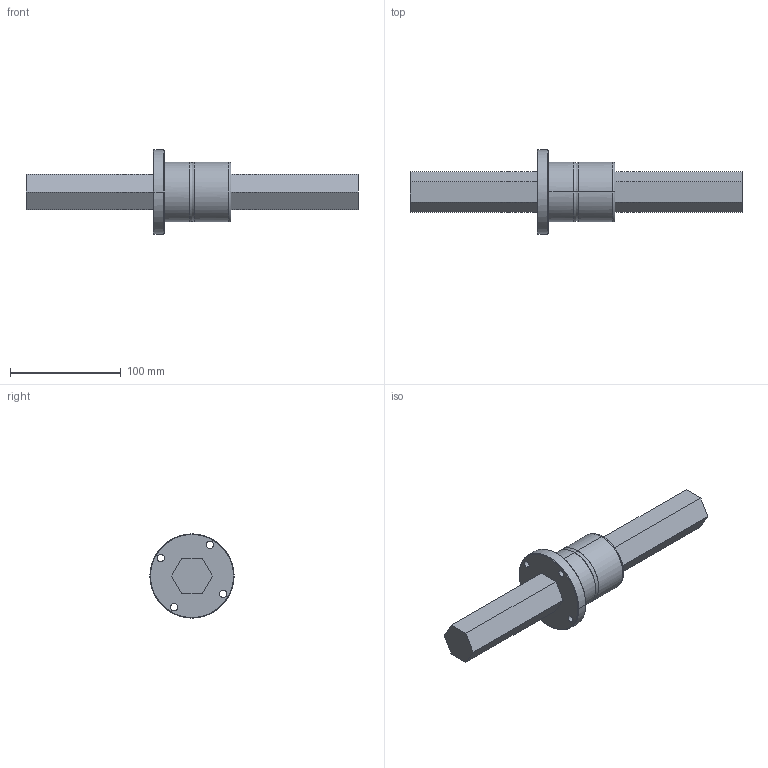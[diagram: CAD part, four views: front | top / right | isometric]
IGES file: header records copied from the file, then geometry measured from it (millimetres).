
Global section: file name: No Iges File Name specified; native system: AutoDesk Inventor R10; preprocessor: AutoDesk Inventor Iges Exporter R10; author: No Author specified; organization: No Organization specified; date: 20101224.162609; units: millimetre
Bounding box: 300 x 76 x 76 mm (x, y, z)
Surface area: 63484.6 mm2 (no closed solid volume)
Topology: 0 solids, 0 shells, 53 faces, 349 edges, 349 vertices
Faces by surface type: bspline 53
